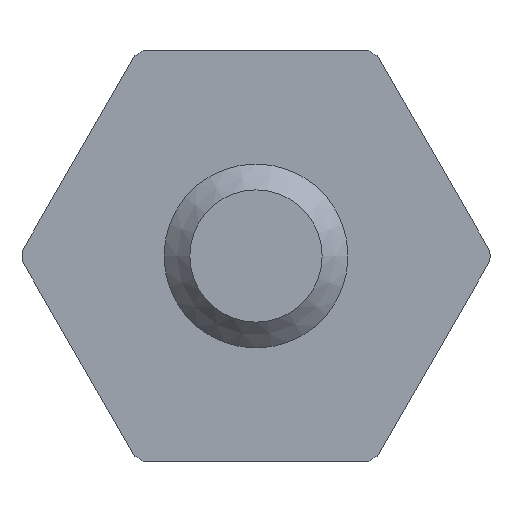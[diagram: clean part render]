
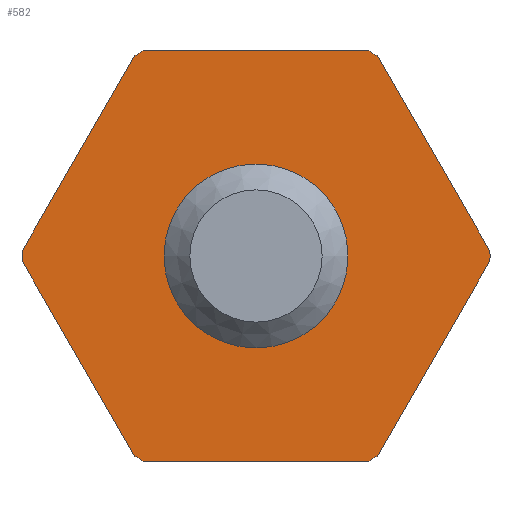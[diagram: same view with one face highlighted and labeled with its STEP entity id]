
A CAD part, left-side view. The second image highlights one B-rep face of the part: STEP entity #582.
In plain terms, the highlighted planar face has unit normal (-1, 0, 0).
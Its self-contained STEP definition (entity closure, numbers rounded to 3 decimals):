
#13=LINE($,#910,#37);
#17=LINE($,#919,#41);
#21=LINE($,#928,#45);
#25=LINE($,#937,#49);
#31=LINE($,#949,#55);
#35=LINE($,#977,#59);
#37=VECTOR($,#745,3.485);
#41=VECTOR($,#751,3.485);
#45=VECTOR($,#757,3.485);
#49=VECTOR($,#763,3.485);
#55=VECTOR($,#771,3.485);
#59=VECTOR($,#813,3.485);
#80=PLANE($,#660);
#121=FACE_BOUND($,#220,.T.);
#157=FACE_OUTER_BOUND($,#219,.T.);
#219=EDGE_LOOP($,(#479,#480,#481,#482,#483,#484,#485,#486,#487,#488,#489,
#490));
#220=EDGE_LOOP($,(#491));
#247=CIRCLE($,#633,3.619);
#248=CIRCLE($,#635,3.619);
#251=CIRCLE($,#639,3.619);
#253=CIRCLE($,#642,3.619);
#255=CIRCLE($,#645,3.619);
#262=CIRCLE($,#659,1.029);
#263=CIRCLE($,#661,3.619);
#284=VERTEX_POINT($,#906);
#286=VERTEX_POINT($,#909);
#288=VERTEX_POINT($,#915);
#290=VERTEX_POINT($,#918);
#292=VERTEX_POINT($,#924);
#294=VERTEX_POINT($,#927);
#296=VERTEX_POINT($,#933);
#298=VERTEX_POINT($,#936);
#301=VERTEX_POINT($,#943);
#303=VERTEX_POINT($,#947);
#305=VERTEX_POINT($,#953);
#306=VERTEX_POINT($,#957);
#313=VERTEX_POINT($,#991);
#335=EDGE_CURVE($,#286,#284,#13,.T.);
#339=EDGE_CURVE($,#290,#288,#17,.T.);
#343=EDGE_CURVE($,#294,#292,#21,.T.);
#347=EDGE_CURVE($,#298,#296,#25,.T.);
#353=EDGE_CURVE($,#301,#303,#31,.T.);
#356=EDGE_CURVE($,#305,#303,#247,.T.);
#357=EDGE_CURVE($,#286,#306,#248,.T.);
#361=EDGE_CURVE($,#301,#296,#251,.T.);
#363=EDGE_CURVE($,#298,#292,#253,.T.);
#365=EDGE_CURVE($,#294,#288,#255,.T.);
#369=EDGE_CURVE($,#305,#306,#35,.T.);
#374=EDGE_CURVE($,#313,#313,#262,.T.);
#375=EDGE_CURVE($,#290,#284,#263,.T.);
#479=ORIENTED_EDGE($,*,*,#335,.T.);
#480=ORIENTED_EDGE($,*,*,#375,.F.);
#481=ORIENTED_EDGE($,*,*,#339,.T.);
#482=ORIENTED_EDGE($,*,*,#365,.F.);
#483=ORIENTED_EDGE($,*,*,#343,.T.);
#484=ORIENTED_EDGE($,*,*,#363,.F.);
#485=ORIENTED_EDGE($,*,*,#347,.T.);
#486=ORIENTED_EDGE($,*,*,#361,.F.);
#487=ORIENTED_EDGE($,*,*,#353,.T.);
#488=ORIENTED_EDGE($,*,*,#356,.F.);
#489=ORIENTED_EDGE($,*,*,#369,.T.);
#490=ORIENTED_EDGE($,*,*,#357,.F.);
#491=ORIENTED_EDGE($,*,*,#374,.T.);
#582=ADVANCED_FACE($,(#157,#121),#80,.T.);
#633=AXIS2_PLACEMENT_3D($,#955,#777,#778);
#635=AXIS2_PLACEMENT_3D($,#958,#781,#782);
#639=AXIS2_PLACEMENT_3D($,#964,#790,#791);
#642=AXIS2_PLACEMENT_3D($,#967,#796,#797);
#645=AXIS2_PLACEMENT_3D($,#970,#802,#803);
#659=AXIS2_PLACEMENT_3D($,#992,#832,#833);
#660=AXIS2_PLACEMENT_3D($,#993,#834,#835);
#661=AXIS2_PLACEMENT_3D($,#994,#836,#837);
#745=DIRECTION($,(0.,0.5,-0.866));
#751=DIRECTION($,(0.,-0.5,-0.866));
#757=DIRECTION($,(0.,-1.,0.));
#763=DIRECTION($,(0.,-0.5,0.866));
#771=DIRECTION($,(0.,0.5,0.866));
#777=DIRECTION('center_axis',(1.,0.,0.));
#778=DIRECTION('ref_axis',(0.,0.,
-1.));
#781=DIRECTION('center_axis',(1.,0.,0.));
#782=DIRECTION('ref_axis',(0.,0.,
-1.));
#790=DIRECTION('center_axis',(1.,0.,0.));
#791=DIRECTION('ref_axis',(0.,0.,
-1.));
#796=DIRECTION('center_axis',(1.,0.,0.));
#797=DIRECTION('ref_axis',(0.,0.,
-1.));
#802=DIRECTION('center_axis',(1.,0.,0.));
#803=DIRECTION('ref_axis',(0.,0.,
-1.));
#813=DIRECTION($,(0.,1.,0.));
#832=DIRECTION('center_axis',(1.,0.,0.));
#833=DIRECTION('ref_axis',(0.,0.,
-1.));
#834=DIRECTION('center_axis',(-1.,0.,0.));
#835=DIRECTION('ref_axis',(0.,0.,1.));
#836=DIRECTION('center_axis',(1.,0.,0.));
#837=DIRECTION('ref_axis',(0.,0.,
-1.));
#906=CARTESIAN_POINT('',(-6.868,16.593,0.46));
#909=CARTESIAN_POINT('',(-6.868,14.85,3.477));
#910=CARTESIAN_POINT($,(-6.868,16.164,1.202));
#915=CARTESIAN_POINT('',(-6.868,14.85,-2.712));
#918=CARTESIAN_POINT('',(-6.868,16.593,0.305));
#919=CARTESIAN_POINT($,(-6.868,16.184,-0.403));
#924=CARTESIAN_POINT('',(-6.868,11.232,-2.789));
#927=CARTESIAN_POINT('',(-6.868,14.717,-2.789));
#928=CARTESIAN_POINT($,(-6.868,14.804,-2.789));
#933=CARTESIAN_POINT('',(-6.868,9.356,0.305));
#936=CARTESIAN_POINT('',(-6.868,11.099,-2.712));
#937=CARTESIAN_POINT($,(-6.868,10.69,-2.004));
#943=CARTESIAN_POINT('',(-6.868,9.356,0.46));
#947=CARTESIAN_POINT('',(-6.868,11.099,3.477));
#949=CARTESIAN_POINT($,(-6.868,10.67,2.735));
#953=CARTESIAN_POINT('',(-6.868,11.232,3.555));
#955=CARTESIAN_POINT('Origin',(-6.868,12.974,0.383));
#957=CARTESIAN_POINT('',(-6.868,14.717,3.555));
#958=CARTESIAN_POINT('Origin',(-6.868,12.974,0.383));
#964=CARTESIAN_POINT('Origin',(-6.868,12.974,0.383));
#967=CARTESIAN_POINT('Origin',(-6.868,12.974,0.383));
#970=CARTESIAN_POINT('Origin',(-6.868,12.974,0.383));
#977=CARTESIAN_POINT($,(-6.868,14.764,3.555));
#991=CARTESIAN_POINT('',(-6.868,14.003,0.383));
#992=CARTESIAN_POINT('Origin',(-6.868,12.974,0.383));
#993=CARTESIAN_POINT('Origin',(-6.868,16.593,0.383));
#994=CARTESIAN_POINT('Origin',(-6.868,12.974,0.383));
